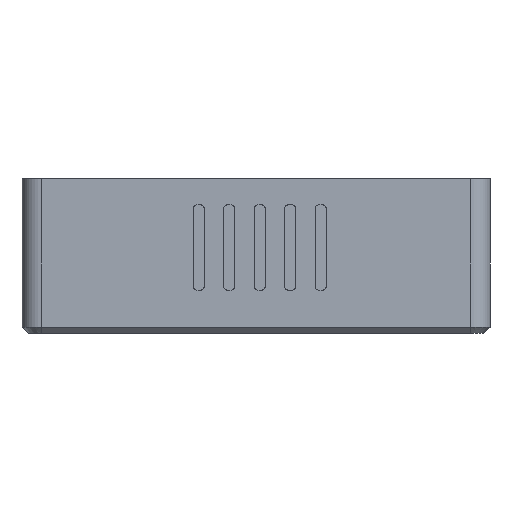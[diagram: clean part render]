
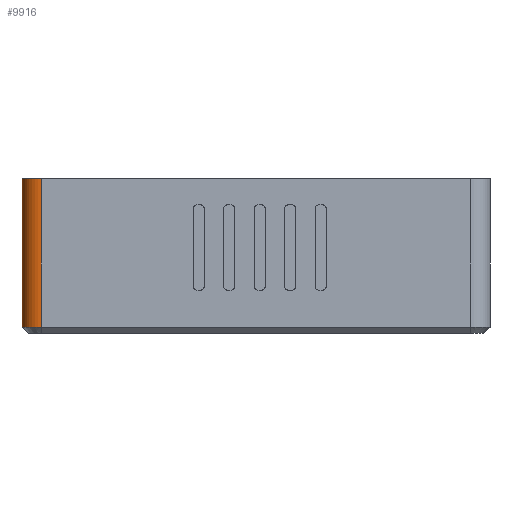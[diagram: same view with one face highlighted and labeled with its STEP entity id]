
A CAD part, left-side view. The second image highlights one B-rep face of the part: STEP entity #9916.
In plain terms, the highlighted cylindrical face has radius 3.2 mm (diameter 6.4 mm), a partial arc.
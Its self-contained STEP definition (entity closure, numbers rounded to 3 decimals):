
#1092 = PLANE('',#1093);
#1093 = AXIS2_PLACEMENT_3D('',#1094,#1095,#1096);
#1094 = CARTESIAN_POINT('',(45.,34.6,21.8));
#1095 = DIRECTION('',(0.,0.,1.));
#1096 = DIRECTION('',(1.,0.,0.));
#3752 = VERTEX_POINT('',#3753);
#3753 = CARTESIAN_POINT('',(-4.2,69.8,21.8));
#3767 = PLANE('',#3768);
#3768 = AXIS2_PLACEMENT_3D('',#3769,#3770,#3771);
#3769 = CARTESIAN_POINT('',(-4.2,-0.6,-2.6));
#3770 = DIRECTION('',(-1.,0.,0.));
#3771 = DIRECTION('',(0.,1.,0.));
#4124 = VERTEX_POINT('',#4125);
#4125 = CARTESIAN_POINT('',(-1.,73.,21.8));
#4139 = PLANE('',#4140);
#4140 = AXIS2_PLACEMENT_3D('',#4141,#4142,#4143);
#4141 = CARTESIAN_POINT('',(-1.,73.,-2.6));
#4142 = DIRECTION('',(0.,1.,0.));
#4143 = DIRECTION('',(1.,0.,0.));
#4151 = EDGE_CURVE('',#4124,#3752,#4152,.T.);
#4152 = SURFACE_CURVE('',#4153,(#4158,#4165),.PCURVE_S1.);
#4153 = CIRCLE('',#4154,3.2);
#4154 = AXIS2_PLACEMENT_3D('',#4155,#4156,#4157);
#4155 = CARTESIAN_POINT('',(-1.,69.8,21.8));
#4156 = DIRECTION('',(0.,0.,1.));
#4157 = DIRECTION('',(1.,0.,0.));
#4158 = PCURVE('',#1092,#4159);
#4159 = DEFINITIONAL_REPRESENTATION('',(#4160),#4164);
#4160 = CIRCLE('',#4161,3.2);
#4161 = AXIS2_PLACEMENT_2D('',#4162,#4163);
#4162 = CARTESIAN_POINT('',(-46.,35.2));
#4163 = DIRECTION('',(1.,0.));
#4164 = ( GEOMETRIC_REPRESENTATION_CONTEXT(2) 
PARAMETRIC_REPRESENTATION_CONTEXT() REPRESENTATION_CONTEXT('2D SPACE',''
  ) );
#4165 = PCURVE('',#4166,#4171);
#4166 = CYLINDRICAL_SURFACE('',#4167,3.2);
#4167 = AXIS2_PLACEMENT_3D('',#4168,#4169,#4170);
#4168 = CARTESIAN_POINT('',(-1.,69.8,-2.6));
#4169 = DIRECTION('',(-0.,-0.,-1.));
#4170 = DIRECTION('',(1.,0.,0.));
#4171 = DEFINITIONAL_REPRESENTATION('',(#4172),#4176);
#4172 = LINE('',#4173,#4174);
#4173 = CARTESIAN_POINT('',(-0.,-24.4));
#4174 = VECTOR('',#4175,1.);
#4175 = DIRECTION('',(-1.,0.));
#4176 = ( GEOMETRIC_REPRESENTATION_CONTEXT(2) 
PARAMETRIC_REPRESENTATION_CONTEXT() REPRESENTATION_CONTEXT('2D SPACE',''
  ) );
#8758 = EDGE_CURVE('',#8759,#3752,#8761,.T.);
#8759 = VERTEX_POINT('',#8760);
#8760 = CARTESIAN_POINT('',(-4.2,69.8,-2.6));
#8761 = SURFACE_CURVE('',#8762,(#8766,#8773),.PCURVE_S1.);
#8762 = LINE('',#8763,#8764);
#8763 = CARTESIAN_POINT('',(-4.2,69.8,-2.6));
#8764 = VECTOR('',#8765,1.);
#8765 = DIRECTION('',(0.,0.,1.));
#8766 = PCURVE('',#3767,#8767);
#8767 = DEFINITIONAL_REPRESENTATION('',(#8768),#8772);
#8768 = LINE('',#8769,#8770);
#8769 = CARTESIAN_POINT('',(70.4,0.));
#8770 = VECTOR('',#8771,1.);
#8771 = DIRECTION('',(0.,-1.));
#8772 = ( GEOMETRIC_REPRESENTATION_CONTEXT(2) 
PARAMETRIC_REPRESENTATION_CONTEXT() REPRESENTATION_CONTEXT('2D SPACE',''
  ) );
#8773 = PCURVE('',#4166,#8774);
#8774 = DEFINITIONAL_REPRESENTATION('',(#8775),#8779);
#8775 = LINE('',#8776,#8777);
#8776 = CARTESIAN_POINT('',(-3.142,0.));
#8777 = VECTOR('',#8778,1.);
#8778 = DIRECTION('',(-0.,-1.));
#8779 = ( GEOMETRIC_REPRESENTATION_CONTEXT(2) 
PARAMETRIC_REPRESENTATION_CONTEXT() REPRESENTATION_CONTEXT('2D SPACE',''
  ) );
#9916 = ADVANCED_FACE('',(#9917),#4166,.T.);
#9917 = FACE_BOUND('',#9918,.F.);
#9918 = EDGE_LOOP('',(#9919,#9942,#9943,#9944));
#9919 = ORIENTED_EDGE('',*,*,#9920,.T.);
#9920 = EDGE_CURVE('',#9921,#4124,#9923,.T.);
#9921 = VERTEX_POINT('',#9922);
#9922 = CARTESIAN_POINT('',(-1.,73.,-2.6));
#9923 = SURFACE_CURVE('',#9924,(#9928,#9935),.PCURVE_S1.);
#9924 = LINE('',#9925,#9926);
#9925 = CARTESIAN_POINT('',(-1.,73.,-2.6));
#9926 = VECTOR('',#9927,1.);
#9927 = DIRECTION('',(0.,0.,1.));
#9928 = PCURVE('',#4166,#9929);
#9929 = DEFINITIONAL_REPRESENTATION('',(#9930),#9934);
#9930 = LINE('',#9931,#9932);
#9931 = CARTESIAN_POINT('',(-1.571,0.));
#9932 = VECTOR('',#9933,1.);
#9933 = DIRECTION('',(-0.,-1.));
#9934 = ( GEOMETRIC_REPRESENTATION_CONTEXT(2) 
PARAMETRIC_REPRESENTATION_CONTEXT() REPRESENTATION_CONTEXT('2D SPACE',''
  ) );
#9935 = PCURVE('',#4139,#9936);
#9936 = DEFINITIONAL_REPRESENTATION('',(#9937),#9941);
#9937 = LINE('',#9938,#9939);
#9938 = CARTESIAN_POINT('',(0.,0.));
#9939 = VECTOR('',#9940,1.);
#9940 = DIRECTION('',(0.,-1.));
#9941 = ( GEOMETRIC_REPRESENTATION_CONTEXT(2) 
PARAMETRIC_REPRESENTATION_CONTEXT() REPRESENTATION_CONTEXT('2D SPACE',''
  ) );
#9942 = ORIENTED_EDGE('',*,*,#4151,.T.);
#9943 = ORIENTED_EDGE('',*,*,#8758,.F.);
#9944 = ORIENTED_EDGE('',*,*,#9945,.F.);
#9945 = EDGE_CURVE('',#9921,#8759,#9946,.T.);
#9946 = SURFACE_CURVE('',#9947,(#9952,#9958),.PCURVE_S1.);
#9947 = CIRCLE('',#9948,3.2);
#9948 = AXIS2_PLACEMENT_3D('',#9949,#9950,#9951);
#9949 = CARTESIAN_POINT('',(-1.,69.8,-2.6));
#9950 = DIRECTION('',(0.,0.,1.));
#9951 = DIRECTION('',(1.,0.,0.));
#9952 = PCURVE('',#4166,#9953);
#9953 = DEFINITIONAL_REPRESENTATION('',(#9954),#9957);
#9954 = B_SPLINE_CURVE_WITH_KNOTS('',1,(#9955,#9956),.UNSPECIFIED.,.F.,
  .F.,(2,2),(1.571,3.142),.PIECEWISE_BEZIER_KNOTS.);
#9955 = CARTESIAN_POINT('',(-1.571,0.));
#9956 = CARTESIAN_POINT('',(-3.142,0.));
#9957 = ( GEOMETRIC_REPRESENTATION_CONTEXT(2) 
PARAMETRIC_REPRESENTATION_CONTEXT() REPRESENTATION_CONTEXT('2D SPACE',''
  ) );
#9958 = PCURVE('',#9959,#9964);
#9959 = CONICAL_SURFACE('',#9960,2.2,0.785);
#9960 = AXIS2_PLACEMENT_3D('',#9961,#9962,#9963);
#9961 = CARTESIAN_POINT('',(-1.,69.8,-3.6));
#9962 = DIRECTION('',(-0.,-0.,1.));
#9963 = DIRECTION('',(-1.,0.,0.));
#9964 = DEFINITIONAL_REPRESENTATION('',(#9965),#9969);
#9965 = LINE('',#9966,#9967);
#9966 = CARTESIAN_POINT('',(3.142,1.));
#9967 = VECTOR('',#9968,1.);
#9968 = DIRECTION('',(1.,0.));
#9969 = ( GEOMETRIC_REPRESENTATION_CONTEXT(2) 
PARAMETRIC_REPRESENTATION_CONTEXT() REPRESENTATION_CONTEXT('2D SPACE',''
  ) );
